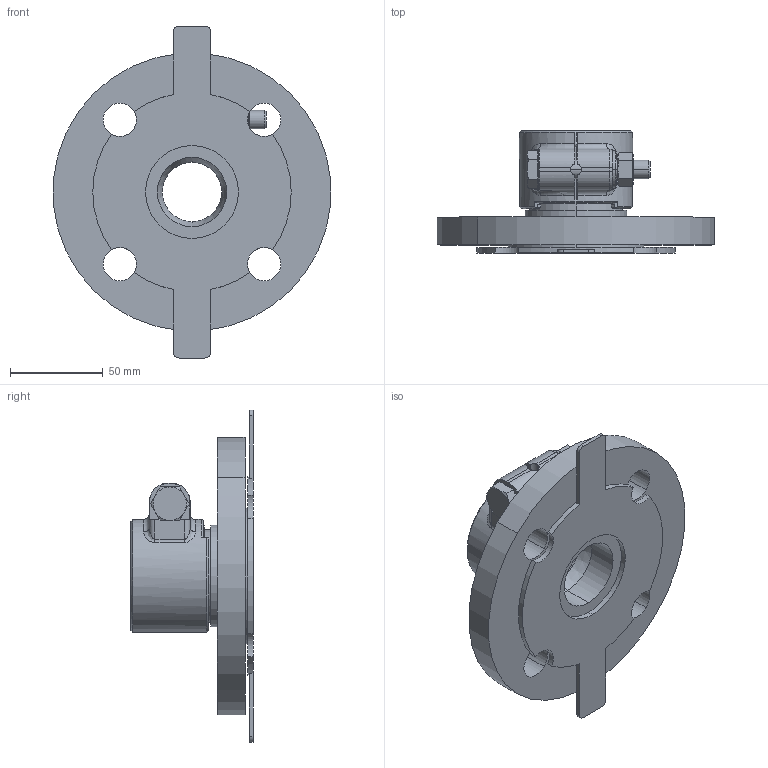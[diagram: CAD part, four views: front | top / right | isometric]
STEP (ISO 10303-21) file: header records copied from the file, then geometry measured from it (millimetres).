
FILE_DESCRIPTION (( 'STEP AP214' ), '1' );
FILE_NAME ('KP_C14-F5-54.step', '2012-05-23T14:31:25', ( 'robinj' ), ( 'Microsoft' ), 'SwSTEP 2.0', 'SolidWorks 2012', '' );
FILE_SCHEMA (( 'AUTOMOTIVE_DESIGN' ));
Length unit declared in the file: millimetre
Products named in the file (1): KP_C14-F5-54
Bounding box: 149.43 x 66 x 179 mm (x, y, z)
Volume: 330456.8 mm3; surface area: 109916.7 mm2
Topology: 8 solids, 8 shells, 456 faces, 1075 edges, 628 vertices
Faces by surface type: cylinder 178, plane 114, torus 64, cone 46, bspline 39, sphere 15
Entity records: 20367 total; most frequent: CARTESIAN_POINT 4892, DIRECTION 2270, ORIENTED_EDGE 2120, EDGE_CURVE 1060, AXIS2_PLACEMENT_3D 931, VERTEX_POINT 628, CIRCLE 513, EDGE_LOOP 488
